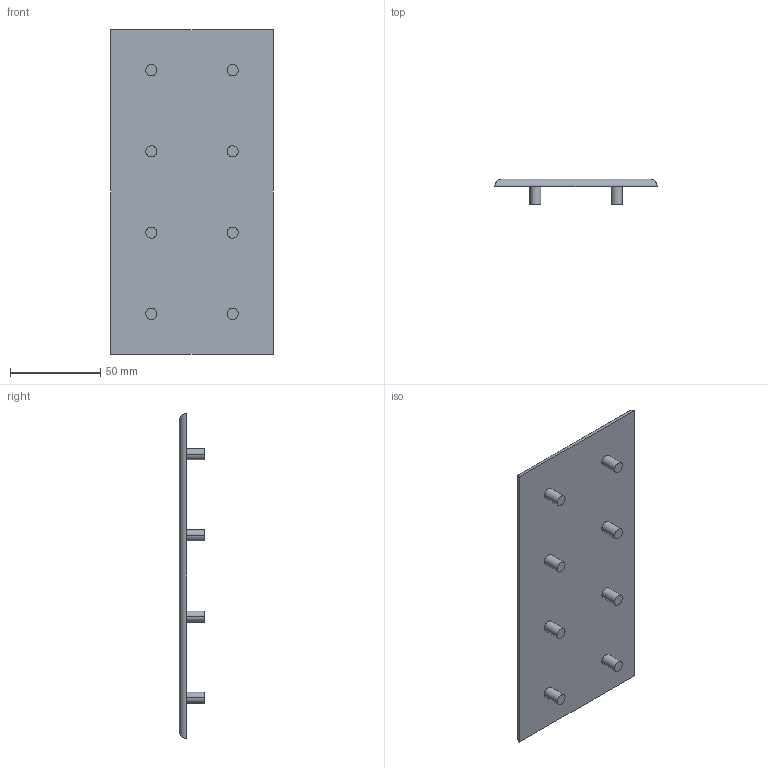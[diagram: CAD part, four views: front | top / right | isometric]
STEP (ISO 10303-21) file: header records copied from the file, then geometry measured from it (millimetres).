
FILE_DESCRIPTION((''),'2;1');
FILE_NAME('TAC90180X','2002-12-27T',('Lipro doo'),('Lipro d.o.o.'),'PRO/ENGINEER BY PARAMETRIC TECHNOLOGY CORPORATION, 2001150','PRO/ENGINEER BY PARAMETRIC TECHNOLOGY CORPORATION, 2001150','');
FILE_SCHEMA(('CONFIG_CONTROL_DESIGN'));
Length unit declared in the file: millimetre
Products named in the file (1): TAC90180X
Bounding box: 90 x 14 x 180 mm (x, y, z)
Volume: 65385.6 mm3; surface area: 35182.1 mm2
Topology: 1 solids, 1 shells, 30 faces, 60 edges, 40 vertices
Faces by surface type: cylinder 20, plane 10
Entity records: 866 total; most frequent: CARTESIAN_POINT 170, DIRECTION 148, ORIENTED_EDGE 120, AXIS2_PLACEMENT_3D 62, EDGE_CURVE 60, VERTEX_POINT 40, EDGE_LOOP 38, CIRCLE 32
